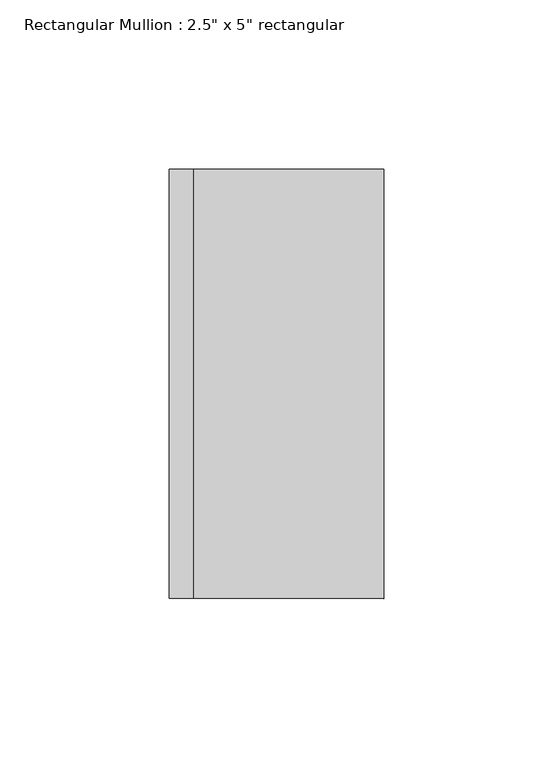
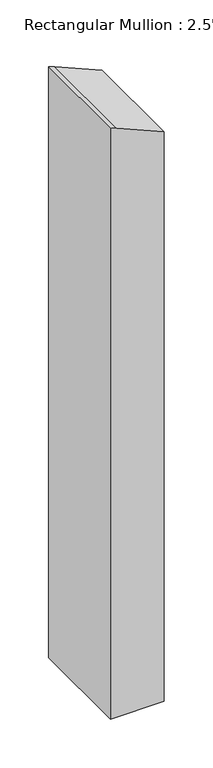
"""IFC4 building model written with IfcOpenShell, lengths in millimetres: member geometry."""

import ifcopenshell
import ifcopenshell.guid

model = None  # the IFC model being written
_history = None  # IfcOwnerHistory: only IFC2X3 demands one
_inside = {}  # id of a spatial element -> (the spatial element, [elements in it])
_under = {}  # id of a project, library or spatial element -> (it, [spatial elements below it])
_declared = {}  # id of a project -> (the project, [libraries it declares])
_typed = {}  # id of a type object -> (the type object, [elements of that type])
_made_of = {}  # id of a material, layer set ... -> (it, [elements and type objects made of it])


def new_model(schema):
    """Start an empty IFC model of exactly this schema.

    Asked for "IFC4X3", IfcOpenShell would pick the latest addendum, in which some entities
    have other attributes; the version numbers below select the first issue.
    IFC2X3 requires an IfcOwnerHistory on every rooted entity: one is made here for all.
    """
    global model, _history
    if schema == "IFC4X3":
        model = ifcopenshell.file(schema_version=(4, 3, 0, 0))
    else:
        model = ifcopenshell.file(schema=schema)
    _inside.clear()
    _under.clear()
    _declared.clear()
    _typed.clear()
    _made_of.clear()
    _history = None
    if model.schema == "IFC2X3":
        org = make("IfcOrganization", Name="unknown")
        user = make(
            "IfcPersonAndOrganization",
            ThePerson=make("IfcPerson", FamilyName="unknown"),
            TheOrganization=org,
        )
        app = make(
            "IfcApplication",
            ApplicationDeveloper=org,
            Version="unknown",
            ApplicationFullName="unknown",
            ApplicationIdentifier="unknown",
        )
        _history = make(
            "IfcOwnerHistory",
            OwningUser=user,
            OwningApplication=app,
            ChangeAction="ADDED",
            CreationDate=0,
        )
    return model


def make(cls, **values):
    """One entity of the class cls with the attributes given. An attribute that is None is left unset."""
    return model.create_entity(
        cls, **{name: value for name, value in values.items() if value is not None}
    )


def rooted(cls, **values):
    """An entity with a GlobalId (a new one), such as an element, a storey or a relation."""
    return make(cls, GlobalId=ifcopenshell.guid.new(), OwnerHistory=_history, **values)


def si_unit(unit_type, name, prefix=None):
    """IfcSIUnit, for example si_unit("LENGTHUNIT", "METRE", prefix="MILLI")."""
    return make("IfcSIUnit", UnitType=unit_type, Prefix=prefix, Name=name)


def assignment(units):
    """IfcUnitAssignment: the units of a project."""
    return None if units is None else make("IfcUnitAssignment", Units=units)


def point(xyz):
    """IfcCartesianPoint."""
    return None if xyz is None else make("IfcCartesianPoint", Coordinates=xyz)


def direction(xyz):
    """IfcDirection."""
    return None if xyz is None else make("IfcDirection", DirectionRatios=xyz)


def frame(location, z_axis=None, x_axis=None):
    """IfcAxis2Placement3D, a coordinate frame: its origin and axes. An axis left out is left unset."""
    return make(
        "IfcAxis2Placement3D",
        Location=point(location),
        Axis=direction(z_axis),
        RefDirection=direction(x_axis),
    )


def origin():
    """The frame at (0, 0, 0) with its axes left unset."""
    return frame((0.0, 0.0, 0.0))


def place(relative_to, where):
    """IfcLocalPlacement: puts the frame where relative to a parent placement (None: the world)."""
    return make(
        "IfcLocalPlacement", PlacementRelTo=relative_to, RelativePlacement=where
    )


def context(
    kind, dimensions, precision=None, world=None, true_north=None, identifier=None
):
    """IfcGeometricRepresentationContext, for example the 3D "Model" context."""
    return make(
        "IfcGeometricRepresentationContext",
        ContextIdentifier=identifier,
        ContextType=kind,
        CoordinateSpaceDimension=dimensions,
        Precision=precision,
        WorldCoordinateSystem=world,
        TrueNorth=true_north,
    )


def project(units=None, contexts=None):
    """IfcProject with its units and contexts."""
    return rooted(
        "IfcProject",
        Name="project",
        RepresentationContexts=contexts,
        UnitsInContext=assignment(units),
    )


def spatial(cls, under=None, at=None, **own):
    """A site, building, storey or space (cls), placed at a placement, below another one or the project."""
    s = rooted(cls, ObjectPlacement=at, **own)
    if under is not None:
        _under.setdefault(under.id(), (under, []))[1].append(s)
    return s


def circle_curve(where, radius):
    """IfcCircle in the frame where."""
    return make("IfcCircle", Position=where, Radius=radius)


def shape(context_of_items, identifier, shape_type, items):
    """IfcShapeRepresentation: the items that make up one representation, for example the "Body"."""
    return make(
        "IfcShapeRepresentation",
        ContextOfItems=context_of_items,
        RepresentationIdentifier=identifier,
        RepresentationType=shape_type,
        Items=items,
    )


def source(mapping_origin, context_of_items, identifier, shape_type, items):
    """IfcRepresentationMap: a shape defined once, which mapped items show again and again."""
    return make(
        "IfcRepresentationMap",
        MappingOrigin=mapping_origin,
        MappedRepresentation=shape(context_of_items, identifier, shape_type, items),
    )


def transform(
    local_origin,
    x_axis=None,
    y_axis=None,
    z_axis=None,
    scale=None,
    scale2=None,
    scale3=None,
    uniform=True,
):
    """IfcCartesianTransformationOperator3D, or its non-uniform kind. x_axis, y_axis, z_axis: its Axis1, 2, 3."""
    if uniform:
        return make(
            "IfcCartesianTransformationOperator3D",
            Axis1=direction(x_axis),
            Axis2=direction(y_axis),
            LocalOrigin=point(local_origin),
            Scale=scale,
            Axis3=direction(z_axis),
        )
    return make(
        "IfcCartesianTransformationOperator3DnonUniform",
        Axis1=direction(x_axis),
        Axis2=direction(y_axis),
        LocalOrigin=point(local_origin),
        Scale=scale,
        Axis3=direction(z_axis),
        Scale2=scale2,
        Scale3=scale3,
    )


def mapped(mapping_source, mapping_target):
    """IfcMappedItem: shows the shape of a source again, moved by a transform."""
    return make(
        "IfcMappedItem", MappingSource=mapping_source, MappingTarget=mapping_target
    )


def made_of(thing, what):
    """Note that an element or type object is made of a material, layer set ...; save() writes the relation."""
    if what is not None:
        _made_of.setdefault(what.id(), (what, []))[1].append(thing)
    return thing


def element(
    cls,
    number,
    at=None,
    inside=None,
    cuts=None,
    type_object=None,
    material=None,
    context=None,
    identifier="Body",
    shape_type=None,
    held_by="IfcProductDefinitionShape",
    body=None,
    shapes=None,
    **own,
):
    """One element of the class cls, such as IfcWall. Its Tag is "e" and its number.

    at: its placement. inside: the storey or other place that contains it. cuts: it is an
    opening in that element (IfcRelVoidsElement). A single representation is given by context,
    identifier, shape_type and body (its items); several are given by shapes. held_by: the class
    of the entity that holds the representations. save() writes the other relations.
    """
    e = rooted(cls, Tag="e%d" % number, ObjectPlacement=at, **own)
    if body is not None:
        shapes = [shape(context, identifier, shape_type, body)]
    if shapes is not None:
        e.Representation = make(held_by, Representations=shapes)
    if inside is not None:
        _inside.setdefault(inside.id(), (inside, []))[1].append(e)
    if cuts is not None:
        rooted(
            "IfcRelVoidsElement", RelatingBuildingElement=cuts, RelatedOpeningElement=e
        )
    if type_object is not None:
        _typed.setdefault(type_object.id(), (type_object, []))[1].append(e)
    return made_of(e, material)


def aggregate(whole, parts):
    """IfcRelAggregates: a whole, such as a stair, and the parts it consists of."""
    return rooted("IfcRelAggregates", RelatingObject=whole, RelatedObjects=parts)


def save(model, path):
    """Write the relations noted so far, then the file.

    IfcRelAggregates (storeys below a building ...), IfcRelContainedInSpatialStructure (elements
    in a storey), IfcRelDefinesByType, IfcRelAssociatesMaterial and IfcRelDeclares: one each for
    every whole, place, type object, material and project.
    """
    for whole, parts in _under.values():
        aggregate(whole, parts)
    for where, things in _inside.values():
        rooted(
            "IfcRelContainedInSpatialStructure",
            RelatedElements=things,
            RelatingStructure=where,
        )
    for kind, things in _typed.values():
        rooted("IfcRelDefinesByType", RelatedObjects=things, RelatingType=kind)
    for what, things in _made_of.values():
        rooted("IfcRelAssociatesMaterial", RelatedObjects=things, RelatingMaterial=what)
    for by, libraries in _declared.values():
        rooted("IfcRelDeclares", RelatingContext=by, RelatedDefinitions=libraries)
    model.write(path)


def plane_surface(at):
    """IfcPlane: the flat surface through the origin of the frame at, square to its z axis."""
    return make("IfcPlane", Position=at)


def cylinder_surface(at, radius):
    """IfcCylindricalSurface: all points at the distance radius from the z axis of the frame at."""
    return make("IfcCylindricalSurface", Position=at, Radius=radius)


def advanced_brep(points, edges, surfaces, faces):
    """IfcAdvancedBrep: a solid bounded by faces that lie on surfaces and meet in shared edges.

    An edge is (start, end): straight between two places in points (the first is 0);
    or (start, end, curve); or (start, end, curve, False) where it runs against its curve.
    A face is (place in surfaces, loops), or (place, loops, False) where it looks against
    its surface's normal. A loop lists edges by number (the first is 1), with a minus sign
    where the edge is run from its end to its start. The first loop is the outer one.
    """
    corners = [point(p) for p in points]
    vertices = [make("IfcVertexPoint", VertexGeometry=c) for c in corners]
    made = []
    for start, end, *more in edges:
        made.append(
            make(
                "IfcEdgeCurve",
                EdgeStart=vertices[start],
                EdgeEnd=vertices[end],
                EdgeGeometry=more[0] if more else make("IfcPolyline", Points=[corners[start], corners[end]]),
                SameSense=more[1] if len(more) > 1 else True,
            )
        )
    hull = []
    for where, loops, *sense in faces:
        bounds = []
        for j, loop in enumerate(loops):
            ring = [make("IfcOrientedEdge", EdgeElement=made[abs(k) - 1], Orientation=k > 0) for k in loop]
            bounds.append(
                make(
                    "IfcFaceOuterBound" if j == 0 else "IfcFaceBound",
                    Bound=make("IfcEdgeLoop", EdgeList=ring),
                    Orientation=True,
                )
            )
        hull.append(make("IfcAdvancedFace", Bounds=bounds, FaceSurface=surfaces[where], SameSense=sense[0] if sense else True))
    return make("IfcAdvancedBrep", Outer=make("IfcClosedShell", CfsFaces=hull))


def member_26cc132b(model_context):
    return source(origin(), model_context, "Body", "AdvancedBrep", [
        advanced_brep(
        [(31.75, 63.5, -795.5642859), (31.75, -63.5, -795.5642859), (-31.75, -63.5, -795.5642859), (-31.75, 63.5, -795.5642859), (-31.75, 63.5, -55.5712456), (-24.422947, 63.5, -58.6154395), (31.75, 63.5, -82.5387212), (-31.75, -63.5, -55.5712456), (31.75, -63.5, -82.5387212), (-24.422947, -63.5, -58.6154395)],
        [
            (0, 1),
            (1, 2),
            (2, 3),
            (3, 0),
            (4, 5, circle_curve(frame((-1524.0, 63.5, -3657.6), z_axis=(0.0, 1.0, 0.0), x_axis=(0.0769230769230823, 0.0, 0.9970370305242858)), 3898.9)),
            (5, 6, circle_curve(frame((-1524.0, 63.5, -3657.6), z_axis=(0.0, 1.0, 0.0), x_axis=(0.3846153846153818, 0.0, 0.9230769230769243)), 3898.9)),
            (6, 0),
            (3, 4),
            (7, 4),
            (2, 7),
            (8, 9, circle_curve(frame((-1524.0, -63.5, -3657.6), z_axis=(0.0, -1.0, 0.0), x_axis=(0.3846153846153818, 0.0, 0.9230769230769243)), 3898.9)),
            (9, 7, circle_curve(frame((-1524.0, -63.5, -3657.6), z_axis=(0.0, -1.0, 0.0), x_axis=(0.0769230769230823, 0.0, 0.9970370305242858)), 3898.9)),
            (1, 8),
            (6, 8),
            (5, 9),
        ],
        [
            plane_surface(frame((0.0, -70.9951583, -795.5642859), z_axis=(0.0, 0.0, -1.0), x_axis=(-1.0, 0.0, 0.0))),
            plane_surface(frame((31.75, 63.5, 0.0), z_axis=(0.0, 1.0, 0.0), x_axis=(0.0, 0.0, -1.0))),
            plane_surface(frame((-31.75, 63.5, 0.0), z_axis=(-1.0, 0.0, 0.0), x_axis=(0.0, 0.0, -1.0))),
            plane_surface(frame((-31.75, -63.5, 0.0), z_axis=(0.0, -1.0, 0.0), x_axis=(0.0, 0.0, -1.0))),
            plane_surface(frame((31.75, -63.5, 0.0), z_axis=(1.0, 0.0, 0.0), x_axis=(0.0, 0.0, -1.0))),
            cylinder_surface(frame((-1524.0, 0.0, -3657.6), z_axis=(0.0, 1.0000000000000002, 0.0), x_axis=(0.3846153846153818, 0.0, 0.9230769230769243)), 3898.9),
            cylinder_surface(frame((-1524.0, 0.0, -3657.6), z_axis=(0.0, 1.0000000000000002, 0.0), x_axis=(0.0769230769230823, 0.0, 0.9970370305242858)), 3898.9),
        ],
        [
            (0, [[1, 2, 3, 4]]),
            (1, [[5, 6, 7, -4, 8]]),
            (2, [[9, -8, -3, 10]]),
            (3, [[11, 12, -10, -2, 13]]),
            (4, [[14, -13, -1, -7]]),
            (5, [[-6, 15, -11, -14]]),
            (6, [[-5, -9, -12, -15]]),
        ],
    ),
    ])


if __name__ == "__main__":
    model = new_model("IFC4")
    model_context = context("Model", 3, world=origin())
    ifc_project = project(units=[si_unit("LENGTHUNIT", "METRE", prefix="MILLI")], contexts=[model_context])
    site = spatial("IfcSite", under=ifc_project)
    building = spatial("IfcBuilding", under=site)
    placement = place(None, origin())
    member_shape = member_26cc132b(model_context)
    element("IfcMember", 1, ObjectType="Rectangular Mullion : 2.5\" x 5\" rectangular", at=placement, inside=building, context=model_context, shape_type="MappedRepresentation", body=[
        mapped(member_shape, transform((0.0, 0.0, 0.0), x_axis=(1.0, 0.0, 0.0), y_axis=(0.0, 1.0, 0.0), z_axis=(0.0, 0.0, 1.0))),
    ])
    save(model, "model.ifc")
